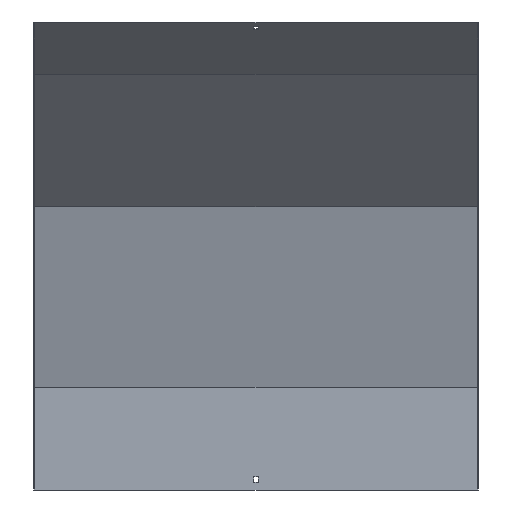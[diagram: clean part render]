
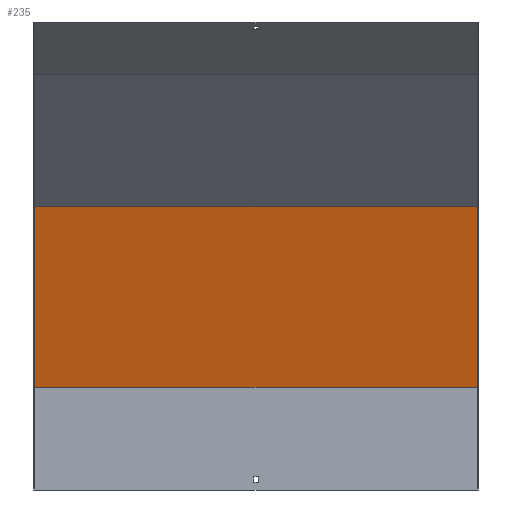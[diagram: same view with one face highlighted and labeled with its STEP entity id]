
A CAD part, front view. The second image highlights one B-rep face of the part: STEP entity #235.
In plain terms, the highlighted planar face has unit normal (0, -0.966, -0.259).
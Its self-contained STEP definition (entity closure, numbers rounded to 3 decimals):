
#17 = LINE ( 'NONE', #703, #355 ) ;
#36 = CARTESIAN_POINT ( 'NONE',  ( -350., 57.87, 15.506 ) ) ;
#39 = CARTESIAN_POINT ( 'NONE',  ( -350., -58.212, 448.729 ) ) ;
#46 = CARTESIAN_POINT ( 'NONE',  ( 350., 18.5, 162.436 ) ) ;
#96 = CARTESIAN_POINT ( 'NONE',  ( -350., 18.5, 162.436 ) ) ;
#141 = EDGE_CURVE ( 'NONE', #986, #913, #734, .T. ) ;
#235 = ADVANCED_FACE ( 'NONE', ( #515 ), #671, .T. ) ;
#238 = ORIENTED_EDGE ( 'NONE', *, *, #141, .T. ) ;
#310 = DIRECTION ( 'NONE',  ( 0., 0.259, -0.966 ) ) ;
#336 = VERTEX_POINT ( 'NONE', #96 ) ;
#345 = EDGE_CURVE ( 'NONE', #913, #550, #17, .T. ) ;
#355 = VECTOR ( 'NONE', #464, 1000. ) ;
#361 = CARTESIAN_POINT ( 'NONE',  ( 350., -58.212, 448.729 ) ) ;
#371 = LINE ( 'NONE', #530, #916 ) ;
#464 = DIRECTION ( 'NONE',  ( -1., 0., 0. ) ) ;
#506 = CARTESIAN_POINT ( 'NONE',  ( 350., 57.87, 15.506 ) ) ;
#515 = FACE_OUTER_BOUND ( 'NONE', #522, .T. ) ;
#522 = EDGE_LOOP ( 'NONE', ( #963, #842, #238, #861 ) ) ;
#530 = CARTESIAN_POINT ( 'NONE',  ( 351.5, 18.5, 162.436 ) ) ;
#532 = DIRECTION ( 'NONE',  ( 0., -0.966, -0.259 ) ) ;
#550 = VERTEX_POINT ( 'NONE', #39 ) ;
#587 = VECTOR ( 'NONE', #883, 1000. ) ;
#594 = CARTESIAN_POINT ( 'NONE',  ( 351.5, 17.87, 164.788 ) ) ;
#637 = AXIS2_PLACEMENT_3D ( 'NONE', #594, #532, #310 ) ;
#658 = EDGE_CURVE ( 'NONE', #336, #550, #679, .T. ) ;
#671 = PLANE ( 'NONE',  #637 ) ;
#679 = LINE ( 'NONE', #36, #587 ) ;
#700 = EDGE_CURVE ( 'NONE', #986, #336, #371, .T. ) ;
#703 = CARTESIAN_POINT ( 'NONE',  ( 351.5, -58.212, 448.729 ) ) ;
#734 = LINE ( 'NONE', #506, #931 ) ;
#812 = DIRECTION ( 'NONE',  ( 0., -0.259, 0.966 ) ) ;
#842 = ORIENTED_EDGE ( 'NONE', *, *, #700, .F. ) ;
#861 = ORIENTED_EDGE ( 'NONE', *, *, #345, .T. ) ;
#883 = DIRECTION ( 'NONE',  ( 0., -0.259, 0.966 ) ) ;
#913 = VERTEX_POINT ( 'NONE', #361 ) ;
#916 = VECTOR ( 'NONE', #922, 1000. ) ;
#922 = DIRECTION ( 'NONE',  ( -1., 0., 0. ) ) ;
#931 = VECTOR ( 'NONE', #812, 1000. ) ;
#963 = ORIENTED_EDGE ( 'NONE', *, *, #658, .F. ) ;
#986 = VERTEX_POINT ( 'NONE', #46 ) ;
